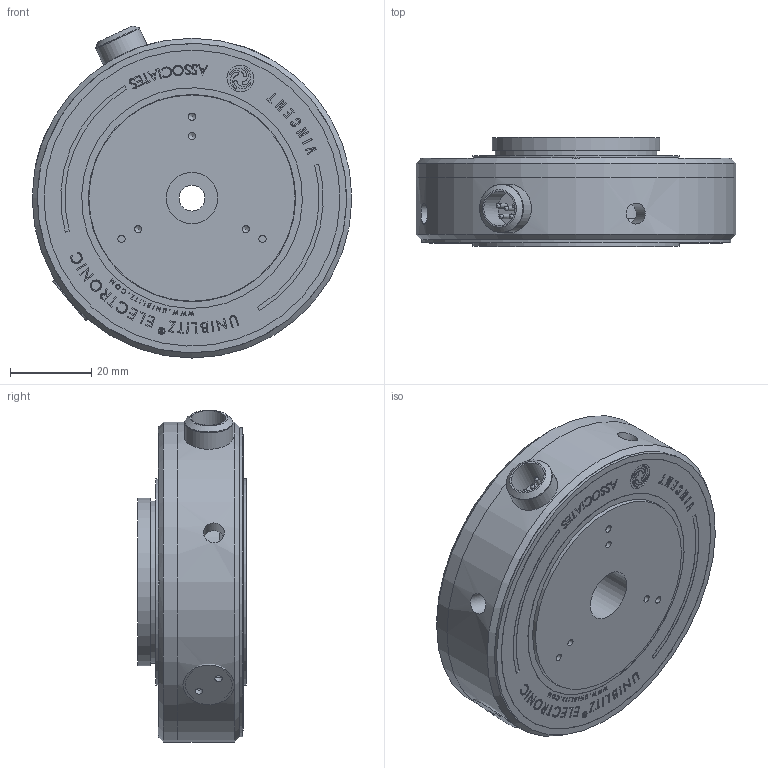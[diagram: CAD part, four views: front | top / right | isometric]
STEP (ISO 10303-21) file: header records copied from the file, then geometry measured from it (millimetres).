
FILE_DESCRIPTION (( 'STEP AP214' ), '1' );
FILE_NAME ('Ls6caseassy123.STEP', '2019-07-03T14:46:05', ( '' ), ( '' ), 'SwSTEP 2.0', 'SolidWorks 2018', '' );
FILE_SCHEMA (( 'AUTOMOTIVE_DESIGN' ));
Length unit declared in the file: inch
Products named in the file (1): Ls6caseassy123
Bounding box: 78.74 x 26.8 x 81.75 mm (x, y, z)
Volume: 61743.9 mm3; surface area: 40371.4 mm2
Topology: 10 solids, 10 shells, 1136 faces, 2761 edges, 1743 vertices
Faces by surface type: plane 582, cylinder 202, cone 175, bspline 164, torus 9, sphere 4
Full cylindrical faces by diameter (mm): 1.143 x10, 1.27 x5, 1.433 x1, 1.687 x1, 1.778 x9, 1.854 x2, 2.261 x4, 2.845 x80, 3.251 x4, 5.105 x2, 5.207 x4, 5.563 x4, 6.35 x2, 6.604 x1, 8.484 x1, 9.921 x1, 10.16 x1, 11.176 x1, 11.509 x1, 11.811 x2, 12.065 x1, 12.7 x3, 18.923 x1, 37.973 x1, 39.878 x1, 41.275 x1, 50.8 x2, 51.054 x1, 54.356 x1, 65.786 x1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
Entity records: 56096 total; most frequent: CARTESIAN_POINT 16908, ORIENTED_EDGE 4766, DIRECTION 4516, EDGE_CURVE 2383, VERTEX_POINT 1706, EDGE_LOOP 1607, AXIS2_PLACEMENT_3D 1515, LINE 1486
